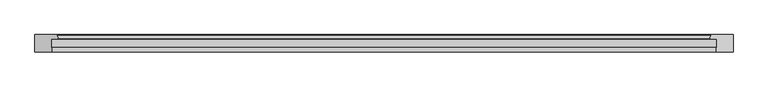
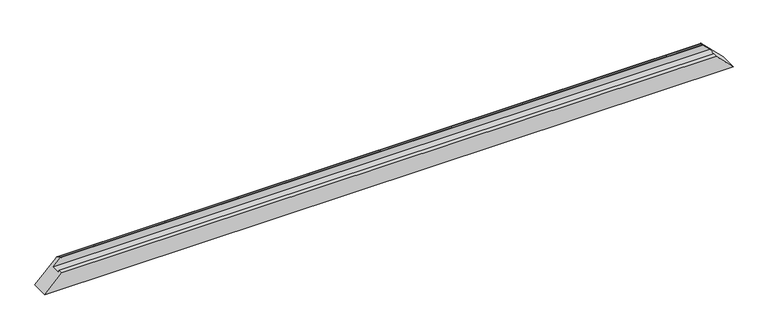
"""IFC4 building model written with IfcOpenShell, lengths in millimetres: proxy geometry, Weiku - Montante - Caixilho 02.2.01.005 : Weiku - Montante - Caixilho 02.2.01.005."""

from ifc_helpers import new_model, si_unit, frame, origin, place, context, project, spatial, ellipse_curve, source, transform, mapped, element, save
from ifc_brep_helpers import plane_surface, cylinder_surface, advanced_brep


def generic_models_9da51813(model_context):
    return source(origin(), model_context, "Body", "AdvancedBrep", [
        advanced_brep(
        [(-949.0, -12.5, 46.0), (949.0, -12.5, 46.0), (928.8909676, -12.5, 66.1090324), (-928.8909676, -12.5, 66.1090324), (-949.0, -37.8314286, 46.0), (949.0, -37.8314286, 46.0), (-946.0, -37.027581, 49.0), (946.0, -37.027581, 49.0), (-946.0, -50.0, 49.0), (946.0, -50.0, 49.0), (995.0, -50.0, 0.0), (-995.0, -50.0, 0.0), (-995.0, 0.0, 0.0), (995.0, 0.0, 0.0), (-933.4997332, 0.0, 61.5002668), (933.4997332, 0.0, 61.5002668), (-928.118227, -11.4929448, 66.881773), (928.118227, -11.4929448, 66.881773), (930.6019557, -2.2235429, 64.3980443), (-930.6019557, -2.2235429, 64.3980443)],
        [
            (0, 1),
            (1, 2),
            (2, 3),
            (3, 0),
            (4, 5),
            (5, 1),
            (0, 4),
            (6, 7),
            (7, 5),
            (4, 6),
            (8, 9),
            (9, 7),
            (6, 8),
            (10, 9),
            (8, 11),
            (11, 10),
            (11, 12),
            (12, 13),
            (13, 10),
            (12, 14),
            (14, 15),
            (15, 13),
            (16, 17),
            (17, 18),
            (18, 19),
            (19, 16),
            (3, 16, ellipse_curve(frame((-928.8909676, -11.7, 66.1090324), z_axis=(-0.707106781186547, 0.0, 0.707106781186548), x_axis=(-0.7071067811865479, 0.0, -0.707106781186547)), 1.1313708, 0.8)),
            (19, 14, ellipse_curve(frame((-933.4997332, -3.0, 61.5002668), z_axis=(-0.707106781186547, 0.0, 0.707106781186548), x_axis=(-0.7071067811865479, 0.0, -0.707106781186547)), 4.2426407, 3.0)),
            (15, 18, ellipse_curve(frame((933.4997332, -3.0, 61.5002668), z_axis=(0.7071067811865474, 0.0, 0.7071067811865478), x_axis=(-0.7071067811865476, 0.0, 0.7071067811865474)), 4.2426407, 3.0)),
            (17, 2, ellipse_curve(frame((928.8909676, -11.7, 66.1090324), z_axis=(0.7071067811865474, 0.0, 0.7071067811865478), x_axis=(-0.7071067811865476, 0.0, 0.7071067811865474)), 1.1313708, 0.8)),
        ],
        [
            plane_surface(frame((-995.0, -12.5, 66.1090324), z_axis=(0.0, -1.0, 0.0), x_axis=(1.0, 0.0, 0.0))),
            plane_surface(frame((-995.0, -12.5, 46.0), z_axis=(0.0, 0.0, 1.0), x_axis=(1.0, 0.0, 0.0))),
            plane_surface(frame((-995.0, -37.8314286, 46.0), z_axis=(0.0, 0.9659258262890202, -0.2588190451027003), x_axis=(1.0, 0.0, 0.0))),
            plane_surface(frame((-995.0, -37.027581, 49.0), z_axis=(0.0, 0.0, 1.0), x_axis=(1.0, 0.0, 0.0))),
            plane_surface(frame((-995.0, -50.0, 49.0), z_axis=(0.0, -1.0, 0.0), x_axis=(1.0, 0.0, 0.0))),
            plane_surface(frame((-995.0, -50.0, 0.0), z_axis=(0.0, 0.0, -1.0), x_axis=(1.0, 0.0, 0.0))),
            plane_surface(frame((-995.0, 0.0, 0.0), z_axis=(0.0, 1.0, 0.0), x_axis=(1.0, 0.0, 0.0))),
            plane_surface(frame((-995.0, -2.2235429, 64.3980443), z_axis=(0.0, 0.2588190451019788, 0.9659258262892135), x_axis=(1.0, 0.0, 0.0))),
            plane_surface(frame((-1065.0, 15.0, -70.0), z_axis=(-0.707106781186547, 0.0, 0.707106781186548), x_axis=(0.0, -1.0, 0.0))),
            plane_surface(frame((925.0, 15.0, 70.0), z_axis=(0.7071067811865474, 0.0, 0.7071067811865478), x_axis=(0.0, -1.0, 0.0))),
            cylinder_surface(frame((-995.0, -11.7, 66.1090324), z_axis=(-1.0, 0.0, 0.0), x_axis=(0.0, -1.0, 0.0)), 0.8),
            cylinder_surface(frame((-995.0, -3.0, 61.5002668), z_axis=(-1.0, 0.0, 0.0), x_axis=(0.0, -1.0, 0.0)), 3.0),
        ],
        [
            (0, [[1, 2, 3, 4]]),
            (1, [[5, 6, -1, 7]]),
            (2, [[8, 9, -5, 10]]),
            (3, [[11, 12, -8, 13]]),
            (4, [[14, -11, 15, 16]]),
            (5, [[17, 18, 19, -16]]),
            (6, [[20, 21, 22, -18]]),
            (7, [[23, 24, 25, 26]]),
            (8, [[27, -26, 28, -20, -17, -15, -13, -10, -7, -4]]),
            (9, [[-6, -9, -12, -14, -19, -22, 29, -24, 30, -2]]),
            (10, [[-3, -30, -23, -27]]),
            (11, [[-25, -29, -21, -28]]),
        ],
    ),
    ])


if __name__ == "__main__":
    model = new_model("IFC4")
    model_context = context("Model", 3, world=origin())
    ifc_project = project(units=[si_unit("LENGTHUNIT", "METRE", prefix="MILLI")], contexts=[model_context])
    site = spatial("IfcSite", under=ifc_project)
    building = spatial("IfcBuilding", under=site)
    placement = place(None, origin())
    generic_models_shape = generic_models_9da51813(model_context)
    element("IfcBuildingElementProxy", 1, Name="Weiku - Montante - Caixilho 02.2.01.005 : Weiku - Montante - Caixilho 02.2.01.005", ObjectType="Weiku - Montante - Caixilho 02.2.01.005 : Weiku - Montante - Caixilho 02.2.01.005", at=placement, inside=building, context=model_context, shape_type="MappedRepresentation", body=[
        mapped(generic_models_shape, transform((0.0, 0.0, 0.0), x_axis=(1.0, 0.0, 0.0), y_axis=(0.0, 1.0, 0.0), z_axis=(0.0, 0.0, 1.0))),
    ])
    save(model, "model.ifc")
